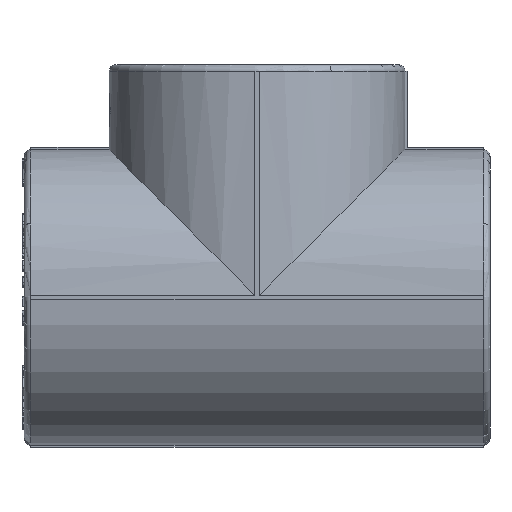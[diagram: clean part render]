
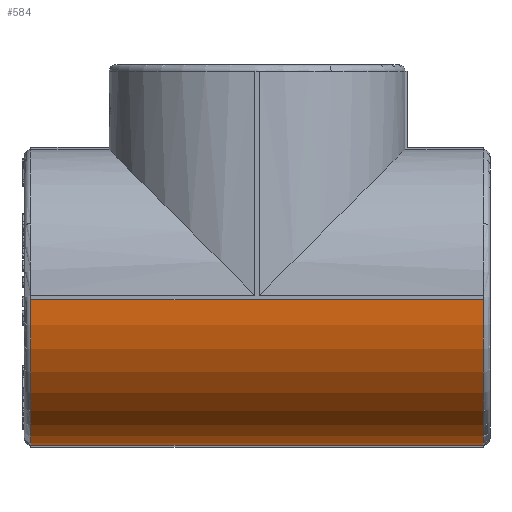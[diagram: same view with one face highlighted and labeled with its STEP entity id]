
A CAD part, left-side view. The second image highlights one B-rep face of the part: STEP entity #584.
In plain terms, the highlighted cylindrical face has radius 33.5 mm (diameter 67 mm), a partial arc.
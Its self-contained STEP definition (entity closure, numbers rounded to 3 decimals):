
#584=ADVANCED_FACE('',(#4568),#4570,.T.);
#4568=FACE_BOUND('',#4569,.T.);
#4569=EDGE_LOOP('',(#11884,#11885,#11886,#11887));
#4570=CYLINDRICAL_SURFACE('',#4571,33.5);
#4571=AXIS2_PLACEMENT_3D('',#4572,#4573,#4574);
#4572=CARTESIAN_POINT('',(0.,-52.8,0.));
#4573=DIRECTION('',(0.,1.,0.));
#4574=DIRECTION('',(-1.,0.,0.));
#11884=ORIENTED_EDGE('',*,*,#17109,.F.);
#11885=ORIENTED_EDGE('',*,*,#17110,.T.);
#11886=ORIENTED_EDGE('',*,*,#17111,.F.);
#11887=ORIENTED_EDGE('',*,*,#17084,.F.);
#17084=EDGE_CURVE('',#20987,#20989,#20990,.T.);
#17109=EDGE_CURVE('',#21032,#20987,#21033,.T.);
#17110=EDGE_CURVE('',#21032,#21034,#21035,.T.);
#17111=EDGE_CURVE('',#20989,#21034,#21036,.F.);
#20987=VERTEX_POINT('',#28808);
#20989=VERTEX_POINT('',#28813);
#20990=CIRCLE('',#28814,33.5);
#21032=VERTEX_POINT('',#28916);
#21033=LINE('',#28917,#28918);
#21034=VERTEX_POINT('',#28920);
#21035=CIRCLE('',#28921,33.5);
#21036=LINE('',#28925,#28926);
#28808=CARTESIAN_POINT('',(-0.5,51.3,-33.496));
#28813=CARTESIAN_POINT('',(-33.496,51.3,-0.5));
#28814=AXIS2_PLACEMENT_3D('',#28815,#28816,#28817);
#28815=CARTESIAN_POINT('',(0.,51.3,0.));
#28816=DIRECTION('',(0.,1.,0.));
#28817=DIRECTION('',(-0.015,0.,-1.));
#28916=CARTESIAN_POINT('',(-0.5,-51.3,-33.496));
#28917=CARTESIAN_POINT('',(-0.5,-51.3,-33.496));
#28918=VECTOR('',#28919,1.);
#28919=DIRECTION('',(0.,1.,0.));
#28920=CARTESIAN_POINT('',(-33.496,-51.3,-0.5));
#28921=AXIS2_PLACEMENT_3D('',#28922,#28923,#28924);
#28922=CARTESIAN_POINT('',(0.,-51.3,0.));
#28923=DIRECTION('',(0.,1.,0.));
#28924=DIRECTION('',(-0.015,0.,-1.));
#28925=CARTESIAN_POINT('',(-33.496,-51.3,-0.5));
#28926=VECTOR('',#28927,1.);
#28927=DIRECTION('',(0.,1.,0.));
